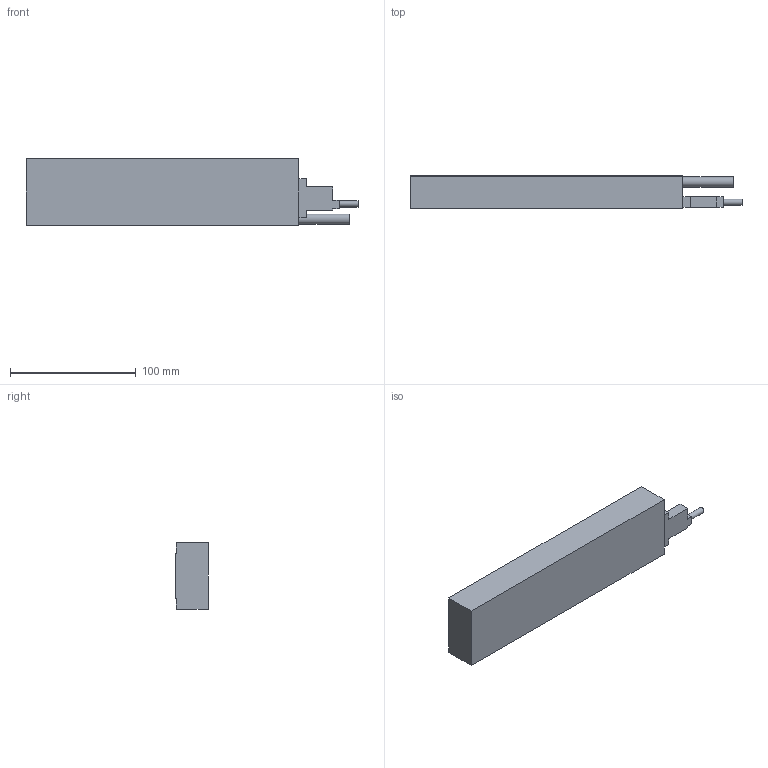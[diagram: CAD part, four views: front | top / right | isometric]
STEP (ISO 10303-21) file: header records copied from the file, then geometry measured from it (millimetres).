
FILE_DESCRIPTION(/* description */ ('STEP AP242 Edition 2','CAx-IF Rec.Pracs.---Representation and Presentation of Product Manufacturing Information (PMI)---4.0---2014-10-13','CAx-IF Rec.Pracs.---3D Tessellated Geometry---0.4---2014-09-14','2;1','CAx-IF Rec.Pracs.---User Defined Attributes---1.5---2016-08-15'),/* implementation_level */ '2;1');
FILE_NAME(/* name */ 'CS40S (1)',/* time_stamp */ '2026-04-13T00:50:17Z',/* author */ (''),/* organization */ (''),/* preprocessor_version */ 'ST-DEVELOPER v20',/* originating_system */ 'ONSHAPE BY PTC INC, 1.213',/* authorisation */ ' ');
FILE_SCHEMA (('AP242_MANAGED_MODEL_BASED_3D_ENGINEERING_MIM_LF { 1 0 10303 442 3 1 4 }'));
Length unit declared in the file: metre
Products named in the file (1): CS40S
Bounding box: 264 x 26 x 53 mm (x, y, z)
Volume: 302328.9 mm3; surface area: 42345.4 mm2
Topology: 1 solids, 2 shells, 90 faces, 224 edges, 143 vertices
Faces by surface type: plane 41, cylinder 31, cone 18
Full cylindrical faces by diameter (mm): 2.5 x2, 3.3 x16, 3.4 x2, 4.9 x2, 8 x1
Entity records: 2368 total; most frequent: DIRECTION 410, CARTESIAN_POINT 395, ORIENTED_EDGE 326, EDGE_CURVE 163, AXIS2_PLACEMENT_3D 156, FACE_BOUND 154, VERTEX_POINT 141, EDGE_LOOP 136
